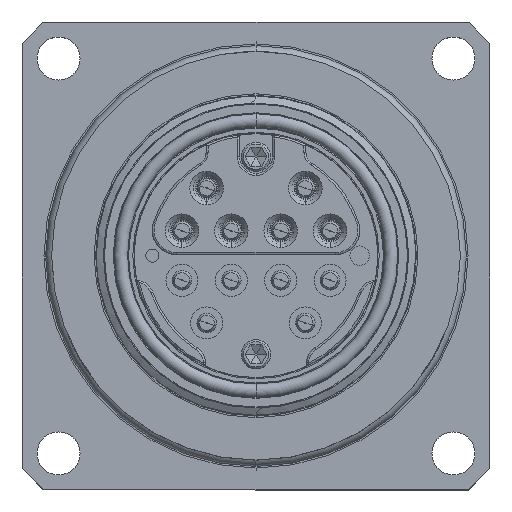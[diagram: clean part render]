
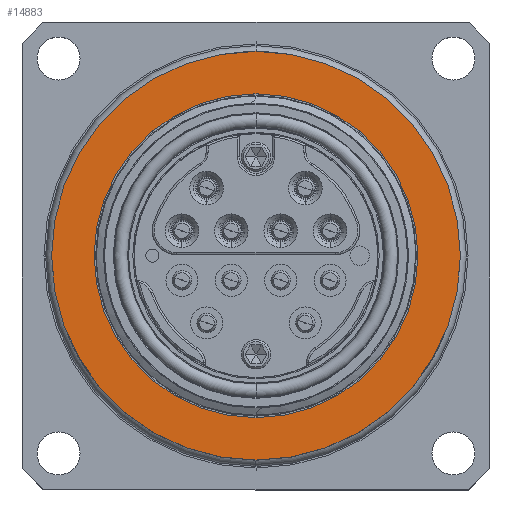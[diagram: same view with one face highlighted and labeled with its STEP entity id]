
A CAD part, top view. The second image highlights one B-rep face of the part: STEP entity #14883.
In plain terms, the highlighted planar face has unit normal (0, 0, 1).
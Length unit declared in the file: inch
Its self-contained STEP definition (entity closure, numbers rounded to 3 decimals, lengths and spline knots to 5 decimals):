
#783 = DIRECTION ( 'NONE',  ( 0., 0., 1. ) ) ;
#903 = DIRECTION ( 'NONE',  ( 0., 0., 1. ) ) ;
#997 = DIRECTION ( 'NONE',  ( 0., 1., 0. ) ) ;
#1217 = VERTEX_POINT ( 'NONE', #14401 ) ;
#1656 = CIRCLE ( 'NONE', #18002, 0.82 ) ;
#2589 = CARTESIAN_POINT ( 'NONE',  ( 0., 0., -0.502 ) ) ;
#3228 = ORIENTED_EDGE ( 'NONE', *, *, #18782, .F. ) ;
#3313 = EDGE_LOOP ( 'NONE', ( #22630, #3228 ) ) ;
#4313 = PLANE ( 'NONE',  #17390 ) ;
#4444 = DIRECTION ( 'NONE',  ( 0., 0., -1. ) ) ;
#5237 = EDGE_CURVE ( 'NONE', #21365, #1217, #21176, .T. ) ;
#6943 = DIRECTION ( 'NONE',  ( 0., 0., 1. ) ) ;
#7226 = EDGE_CURVE ( 'NONE', #23485, #19663, #22316, .T. ) ;
#8177 = DIRECTION ( 'NONE',  ( 0., 1., 0. ) ) ;
#8948 = CARTESIAN_POINT ( 'NONE',  ( 0., 1.035, -0.502 ) ) ;
#9913 = AXIS2_PLACEMENT_3D ( 'NONE', #2589, #783, #8177 ) ;
#10123 = CARTESIAN_POINT ( 'NONE',  ( 0., 0., -0.502 ) ) ;
#10692 = CARTESIAN_POINT ( 'NONE',  ( 0., 0., -0.502 ) ) ;
#10769 = EDGE_LOOP ( 'NONE', ( #16447, #19322 ) ) ;
#11020 = AXIS2_PLACEMENT_3D ( 'NONE', #18431, #6943, #21854 ) ;
#11153 = CARTESIAN_POINT ( 'NONE',  ( 0., 0.82, -0.502 ) ) ;
#11799 = AXIS2_PLACEMENT_3D ( 'NONE', #10123, #903, #15513 ) ;
#11867 = FACE_OUTER_BOUND ( 'NONE', #10769, .T. ) ;
#13714 = FACE_BOUND ( 'NONE', #3313, .T. ) ;
#14401 = CARTESIAN_POINT ( 'NONE',  ( 0., -0.82, -0.502 ) ) ;
#14883 = ADVANCED_FACE ( 'NONE', ( #13714, #11867 ), #4313, .F. ) ;
#15513 = DIRECTION ( 'NONE',  ( 0., 1., 0. ) ) ;
#16447 = ORIENTED_EDGE ( 'NONE', *, *, #16998, .T. ) ;
#16744 = CARTESIAN_POINT ( 'NONE',  ( 0., -1.035, -0.502 ) ) ;
#16998 = EDGE_CURVE ( 'NONE', #19663, #23485, #19682, .T. ) ;
#17390 = AXIS2_PLACEMENT_3D ( 'NONE', #22986, #4444, #19438 ) ;
#18002 = AXIS2_PLACEMENT_3D ( 'NONE', #10692, #23300, #997 ) ;
#18431 = CARTESIAN_POINT ( 'NONE',  ( 0., 0., -0.502 ) ) ;
#18782 = EDGE_CURVE ( 'NONE', #1217, #21365, #1656, .T. ) ;
#19322 = ORIENTED_EDGE ( 'NONE', *, *, #7226, .T. ) ;
#19438 = DIRECTION ( 'NONE',  ( 0., -1., 0. ) ) ;
#19663 = VERTEX_POINT ( 'NONE', #8948 ) ;
#19682 = CIRCLE ( 'NONE', #9913, 1.035 ) ;
#21176 = CIRCLE ( 'NONE', #11020, 0.82 ) ;
#21365 = VERTEX_POINT ( 'NONE', #11153 ) ;
#21854 = DIRECTION ( 'NONE',  ( 0., 1., 0. ) ) ;
#22316 = CIRCLE ( 'NONE', #11799, 1.035 ) ;
#22630 = ORIENTED_EDGE ( 'NONE', *, *, #5237, .F. ) ;
#22986 = CARTESIAN_POINT ( 'NONE',  ( -1.035, 0., -0.502 ) ) ;
#23300 = DIRECTION ( 'NONE',  ( 0., 0., 1. ) ) ;
#23485 = VERTEX_POINT ( 'NONE', #16744 ) ;
